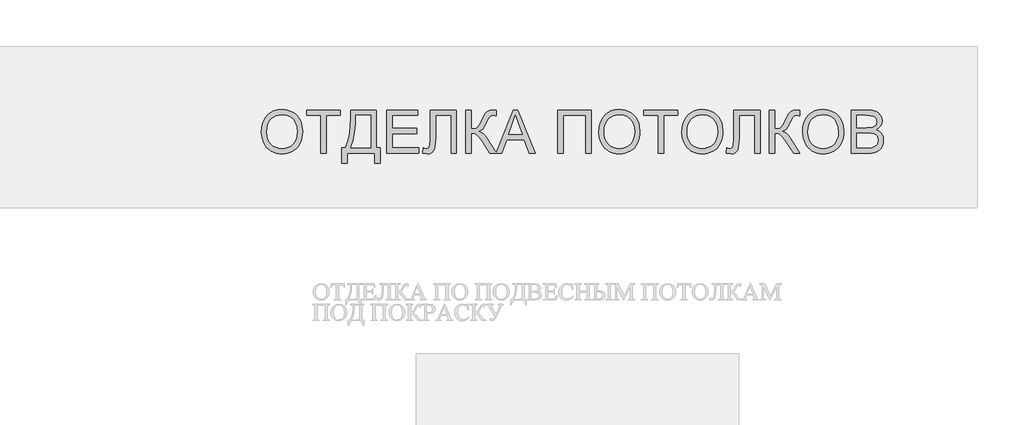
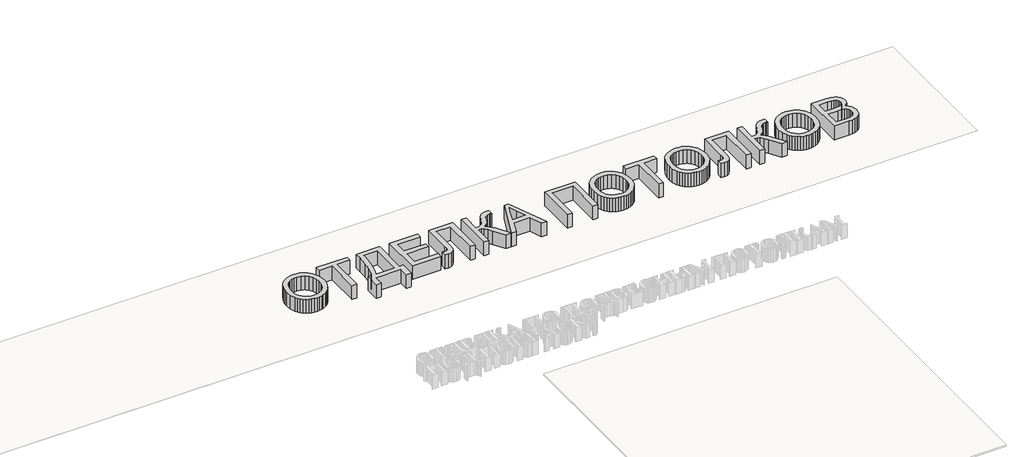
# One storey, part 17 of 17: 1 proxy.
"""IFC4 building model written with IfcOpenShell, lengths in millimetres."""

from ifc_helpers import new_model, si_unit, origin, origin_with_axes, place, context, project, spatial, polyline, outline, extrude, element, save

model = new_model("IFC4")

# Units and contexts
model_context = context("Model", 3, world=origin())
ifc_project = project(units=[si_unit("LENGTHUNIT", "METRE", prefix="MILLI")], contexts=[model_context])

# Site, building, storey
site = spatial("IfcSite", under=ifc_project)
building = spatial("IfcBuilding", under=site)
storey = spatial("IfcBuildingStorey", under=building, Name="Уровень 1", Elevation=0.0)

# Proxy
placement = place(None, origin())
element("IfcBuildingElementProxy", 1, Name="400 мм Arial", ObjectType="400 мм Arial", at=placement, inside=storey, context=model_context, shape_type="SweptSolid", body=[
    extrude(outline(polyline([(6247.8345648, 19027.976291), (6251.182291, 19075.1081059), (6261.2254694, 19116.8320556), (6277.9641002, 19153.1481399), (6301.3981833, 19184.0563588), (6330.1236358, 19208.7351093), (6362.7363746, 19226.3627883), (6399.2363999, 19236.9393956), (6439.6237116, 19240.4649314), (6466.6569069, 19238.8094624), (6492.3289388, 19233.8430555), (6516.6398073, 19225.5657106), (6539.5895125, 19213.9774278), (6560.5342607, 19199.4276948), (6578.8302586, 19182.2659998), (6594.4775061, 19162.4923425), (6607.4760033, 19140.1067231), (6617.69086, 19115.618045), (6624.9871863, 19089.5352115), (6630.8242473, 19032.5870787), (6629.2883399, 19002.9296585), (6624.6806179, 18974.8786564), (6617.0010813, 18948.4340723), (6606.24973, 18923.5959062), (6592.6810157, 18901.0202145), (6576.5493902, 18881.3630532), (6557.8548535, 18864.6244224), (6536.5974056, 18850.8043221), (6513.6139779, 18839.9885915), (6489.7415021, 18832.2630696), (6464.9799781, 18827.6277564), (6439.329406, 18826.082652), (6411.8240955, 18827.7902376), (6385.8148385, 18832.9129944), (6361.3016349, 18841.4509224), (6338.2844847, 18853.4040215), (6317.3642619, 18868.3093737), (6299.1418404, 18885.7040607), (6283.6172202, 18905.5880826), (6270.7904013, 18927.9614392), (6253.5735239, 18976.5831763), (6247.8345648, 19027.976291)]), holes=[polyline([(6298.0627199, 19027.4857817), (6300.5735145, 18994.1863297), (6308.1058984, 18964.6270114), (6320.6598714, 18938.8078267), (6338.2354338, 18916.7287757), (6359.6001806, 18899.0459144), (6383.5217074, 18886.4152993), (6410.000014, 18878.8369301), (6439.0351004, 18876.3108071), (6468.5668276, 18878.8614556), (6495.3578339, 18886.5134011), (6519.4081193, 18899.2666436), (6540.7176839, 18917.1211831), (6558.1644875, 18939.6662181), (6570.6264901, 18966.4909469), (6578.1036917, 18997.5953696), (6580.5960922, 19032.9794861), (6576.328661, 19077.4441566), (6563.5263676, 19115.8755624), (6542.5203057, 19147.3049475), (6513.6415691, 19170.7635561), (6478.8031441, 19185.3684713), (6439.9180172, 19190.2367763), (6411.8915406, 19187.8915286), (6385.8884149, 19180.8557855), (6361.9086401, 19169.1295469), (6339.9522164, 19152.7128128), (6321.6255617, 19130.8146371), (6308.535094, 19102.6440733), (6300.6808134, 19068.2011215), (6298.0627199, 19027.4857817)])]), origin_with_axes(), (0.0, 0.0, 1.0), 150.0),
    extrude(outline(polyline([(6800.3442706, 18832.3611714), (6800.3442706, 19183.9582569), (6668.4953636, 19183.9582569), (6668.4953636, 19234.186412), (6982.4213328, 19234.186412), (6982.4213328, 19183.9582569), (6850.5724257, 19183.9582569), (6850.5724257, 18832.3611714), (6800.3442706, 18832.3611714)])), origin_with_axes(), (0.0, 0.0, 1.0), 150.0),
    extrude(outline(polyline([(7076.5991235, 19234.186412), (7315.1828602, 19234.186412), (7315.1828602, 18882.5893265), (7352.8539765, 18882.5893265), (7352.8539765, 18738.1833807), (7302.6258214, 18738.1833807), (7302.6258214, 18832.3611714), (7045.2065266, 18832.3611714), (7045.2065266, 18738.1833807), (6994.9783715, 18738.1833807), (6994.9783715, 18882.5893265), (7026.3709685, 18882.5893265), (7038.1431923, 18903.0542953), (7048.3457863, 18928.1515116), (7064.0420848, 18992.2426865), (7073.4598639, 19074.8628513), (7076.5991235, 19176.0120059), (7076.5991235, 19234.186412)]), holes=[polyline([(7264.9547051, 19183.9582569), (7126.8272786, 19183.9582569), (7126.8272786, 19163.7492727), (7124.2766301, 19104.1769149), (7116.6246846, 19026.1123556), (7101.5169974, 18946.5762682), (7090.2843338, 18912.6391541), (7076.5991235, 18882.5893265), (7264.9547051, 18882.5893265), (7264.9547051, 19183.9582569)])]), origin_with_axes(), (0.0, 0.0, 1.0), 150.0),
    extrude(outline(polyline([(7415.6391703, 18832.3611714), (7415.6391703, 19234.186412), (7704.451062, 19234.186412), (7704.451062, 19183.9582569), (7465.8673254, 19183.9582569), (7465.8673254, 19064.6663886), (7691.8940232, 19064.6663886), (7691.8940232, 19014.4382336), (7465.8673254, 19014.4382336), (7465.8673254, 18882.5893265), (7710.7295814, 18882.5893265), (7710.7295814, 18832.3611714), (7415.6391703, 18832.3611714)])), origin_with_axes(), (0.0, 0.0, 1.0), 150.0),
    extrude(outline(polyline([(7817.4644109, 19234.186412), (8062.3266669, 19234.186412), (8062.3266669, 18832.3611714), (8012.0985118, 18832.3611714), (8012.0985118, 19183.9582569), (7867.692566, 19183.9582569), (7867.692566, 18978.9253583), (7866.2333007, 18924.8589677), (7861.855505, 18887.4453688), (7852.8178706, 18861.5955273), (7837.3790896, 18842.2204089), (7816.2381376, 18830.1170913), (7790.0939905, 18826.082652), (7748.4006977, 18832.3611714), (7754.6792171, 18882.5893265), (7778.7141741, 18876.3108071), (7795.6980595, 18879.6830587), (7807.8013772, 18889.7998136), (7815.0486525, 18912.4245563), (7817.4644109, 18953.3207714), (7817.4644109, 19234.186412)])), origin_with_axes(), (0.0, 0.0, 1.0), 150.0),
    extrude(outline(polyline([(8374.4868025, 18832.3611714), (8303.0686445, 18945.5707241), (8275.4897576, 18981.880677), (8252.7914385, 19004.677098), (8229.5780846, 19016.7068392), (8200.4540933, 19020.716753), (8200.4540933, 18832.3611714), (8150.2259383, 18832.3611714), (8150.2259383, 19234.186412), (8200.4540933, 19234.186412), (8200.4540933, 19058.3878693), (8234.4586524, 19061.71107), (8256.6174113, 19071.680672), (8274.5332644, 19095.1392806), (8295.8091065, 19138.9295007), (8323.5228835, 19195.0928187), (8336.8892626, 19210.3108705), (8354.9154804, 19222.9046975), (8376.3139498, 19231.3659834), (8399.7970838, 19234.186412), (8432.7593106, 19233.5978008), (8432.7593106, 19183.3696458), (8421.6737998, 19183.6639514), (8410.588289, 19183.9582569), (8387.5834016, 19180.9416246), (8371.3475428, 19171.8917275), (8357.368027, 19152.8844911), (8341.5245758, 19120.1920445), (8322.0881437, 19079.4797703), (8305.9626496, 19057.2106469), (8290.0578846, 19045.487474), (8271.2836401, 19036.4130514), (8290.7384663, 19028.1357065), (8310.0584024, 19013.7024696), (8329.2434485, 18993.1133406), (8348.2936045, 18966.3683195), (8431.0775238, 18835.0293721), (8590.4090082, 19234.186412), (8633.1814215, 19234.186412), (8793.4798696, 18832.3611714), (8740.4067604, 18832.3611714), (8694.4950874, 18957.9315591), (8528.8991386, 18957.9315591), (8482.9874656, 18832.3611714), (8432.7593106, 18832.3611714), (8430.0124583, 18832.3611714), (8374.4868025, 18832.3611714)]), holes=[polyline([(8547.3422893, 19008.1597142), (8676.1500386, 19008.1597142), (8639.8523484, 19106.9482926), (8611.697113, 19183.9582569), (8586.6811373, 19115.5812568), (8547.3422893, 19008.1597142)])]), origin_with_axes(), (0.0, 0.0, 1.0), 150.0),
    extrude(outline(polyline([(9004.1045745, 19234.186412), (9318.0305438, 19234.186412), (9318.0305438, 18832.3611714), (9267.8023887, 18832.3611714), (9267.8023887, 19183.9582569), (9054.3327296, 19183.9582569), (9054.3327296, 18832.3611714), (9004.1045745, 18832.3611714), (9004.1045745, 19234.186412)])), origin_with_axes(), (0.0, 0.0, 1.0), 150.0),
    extrude(outline(polyline([(9387.094257, 19027.976291), (9390.4419831, 19075.1081059), (9400.4851616, 19116.8320556), (9417.2237924, 19153.1481399), (9440.6578755, 19184.0563588), (9469.3833279, 19208.7351093), (9501.9960668, 19226.3627883), (9538.4960921, 19236.9393956), (9578.8834038, 19240.4649314), (9605.9165991, 19238.8094624), (9631.588631, 19233.8430555), (9655.8994995, 19225.5657106), (9678.8492046, 19213.9774278), (9699.7939529, 19199.4276948), (9718.0899508, 19182.2659998), (9733.7371983, 19162.4923425), (9746.7356955, 19140.1067231), (9756.9505522, 19115.618045), (9764.2468784, 19089.5352115), (9770.0839394, 19032.5870787), (9768.5480321, 19002.9296585), (9763.9403101, 18974.8786564), (9756.2607735, 18948.4340723), (9745.5094222, 18923.5959062), (9731.9407079, 18901.0202145), (9715.8090824, 18881.3630532), (9697.1145457, 18864.6244224), (9675.8570977, 18850.8043221), (9652.8736701, 18839.9885915), (9629.0011943, 18832.2630696), (9604.2396703, 18827.6277564), (9578.5890982, 18826.082652), (9551.0837877, 18827.7902376), (9525.0745306, 18832.9129944), (9500.561327, 18841.4509224), (9477.5441769, 18853.4040215), (9456.6239541, 18868.3093737), (9438.4015326, 18885.7040607), (9422.8769124, 18905.5880826), (9410.0500935, 18927.9614392), (9392.8332161, 18976.5831763), (9387.094257, 19027.976291)]), holes=[polyline([(9437.3224121, 19027.4857817), (9439.8332067, 18994.1863297), (9447.3655905, 18964.6270114), (9459.9195636, 18938.8078267), (9477.4951259, 18916.7287757), (9498.8598728, 18899.0459144), (9522.7813995, 18886.4152993), (9549.2597061, 18878.8369301), (9578.2947926, 18876.3108071), (9607.8265198, 18878.8614556), (9634.6175261, 18886.5134011), (9658.6678115, 18899.2666436), (9679.9773761, 18917.1211831), (9697.4241797, 18939.6662181), (9709.8861823, 18966.4909469), (9717.3633838, 18997.5953696), (9719.8557844, 19032.9794861), (9715.5883532, 19077.4441566), (9702.7860598, 19115.8755624), (9681.7799979, 19147.3049475), (9652.9012612, 19170.7635561), (9618.0628363, 19185.3684713), (9579.1777094, 19190.2367763), (9551.1512327, 19187.8915286), (9525.148107, 19180.8557855), (9501.1683323, 19169.1295469), (9479.2119086, 19152.7128128), (9460.8852539, 19130.8146371), (9447.7947862, 19102.6440733), (9439.9405056, 19068.2011215), (9437.3224121, 19027.4857817)])]), origin_with_axes(), (0.0, 0.0, 1.0), 150.0),
    extrude(outline(polyline([(9939.6039628, 18832.3611714), (9939.6039628, 19183.9582569), (9807.7550557, 19183.9582569), (9807.7550557, 19234.186412), (10121.681025, 19234.186412), (10121.681025, 19183.9582569), (9989.8321179, 19183.9582569), (9989.8321179, 18832.3611714), (9939.6039628, 18832.3611714)])), origin_with_axes(), (0.0, 0.0, 1.0), 150.0),
    extrude(outline(polyline([(10159.3521413, 19027.976291), (10162.6998674, 19075.1081059), (10172.7430459, 19116.8320556), (10189.4816767, 19153.1481399), (10212.9157598, 19184.0563588), (10241.6412122, 19208.7351093), (10274.2539511, 19226.3627883), (10310.7539764, 19236.9393956), (10351.1412881, 19240.4649314), (10378.1744834, 19238.8094624), (10403.8465153, 19233.8430555), (10428.1573838, 19225.5657106), (10451.1070889, 19213.9774278), (10472.0518372, 19199.4276948), (10490.3478351, 19182.2659998), (10505.9950826, 19162.4923425), (10518.9935797, 19140.1067231), (10529.2084365, 19115.618045), (10536.5047627, 19089.5352115), (10542.3418237, 19032.5870787), (10540.8059164, 19002.9296585), (10536.1981944, 18974.8786564), (10528.5186577, 18948.4340723), (10517.7673064, 18923.5959062), (10504.1985922, 18901.0202145), (10488.0669667, 18881.3630532), (10469.37243, 18864.6244224), (10448.114982, 18850.8043221), (10425.1315544, 18839.9885915), (10401.2590786, 18832.2630696), (10376.4975546, 18827.6277564), (10350.8469825, 18826.082652), (10323.341672, 18827.7902376), (10297.3324149, 18832.9129944), (10272.8192113, 18841.4509224), (10249.8020611, 18853.4040215), (10228.8818384, 18868.3093737), (10210.6594169, 18885.7040607), (10195.1347967, 18905.5880826), (10182.3079778, 18927.9614392), (10165.0911004, 18976.5831763), (10159.3521413, 19027.976291)]), holes=[polyline([(10209.5802963, 19027.4857817), (10212.091091, 18994.1863297), (10219.6234748, 18964.6270114), (10232.1774479, 18938.8078267), (10249.7530102, 18916.7287757), (10271.1177571, 18899.0459144), (10295.0392838, 18886.4152993), (10321.5175904, 18878.8369301), (10350.5526769, 18876.3108071), (10380.0844041, 18878.8614556), (10406.8754104, 18886.5134011), (10430.9256958, 18899.2666436), (10452.2352604, 18917.1211831), (10469.682064, 18939.6662181), (10482.1440666, 18966.4909469), (10489.6212681, 18997.5953696), (10492.1136686, 19032.9794861), (10487.8462375, 19077.4441566), (10475.0439441, 19115.8755624), (10454.0378821, 19147.3049475), (10425.1591455, 19170.7635561), (10390.3207206, 19185.3684713), (10351.4355937, 19190.2367763), (10323.409117, 19187.8915286), (10297.4059913, 19180.8557855), (10273.4262166, 19169.1295469), (10251.4697929, 19152.7128128), (10233.1431381, 19130.8146371), (10220.0526705, 19102.6440733), (10212.1983899, 19068.2011215), (10209.5802963, 19027.4857817)])]), origin_with_axes(), (0.0, 0.0, 1.0), 150.0),
    extrude(outline(polyline([(10642.7981339, 19234.186412), (10887.6603898, 19234.186412), (10887.6603898, 18832.3611714), (10837.4322348, 18832.3611714), (10837.4322348, 19183.9582569), (10693.0262889, 19183.9582569), (10693.0262889, 18978.9253583), (10691.5670237, 18924.8589677), (10687.1892279, 18887.4453688), (10678.1515936, 18861.5955273), (10662.7128125, 18842.2204089), (10641.5718605, 18830.1170913), (10615.4277134, 18826.082652), (10573.7344206, 18832.3611714), (10580.01294, 18882.5893265), (10604.047897, 18876.3108071), (10621.0317825, 18879.6830587), (10633.1351001, 18889.7998136), (10640.3823754, 18912.4245563), (10642.7981339, 18953.3207714), (10642.7981339, 19234.186412)])), origin_with_axes(), (0.0, 0.0, 1.0), 150.0),
    extrude(outline(polyline([(10975.5596612, 19234.186412), (11025.7878163, 19234.186412), (11025.7878163, 19058.3878693), (11059.7923754, 19061.71107), (11081.9511342, 19071.680672), (11099.8669874, 19095.1392806), (11121.1428295, 19138.9295007), (11148.8566064, 19195.0928187), (11162.2229856, 19210.3108705), (11180.2492033, 19222.9046975), (11201.6476727, 19231.3659834), (11225.1308068, 19234.186412), (11258.0930335, 19233.5978008), (11258.0930335, 19183.3696458), (11247.0075227, 19183.6639514), (11235.9220119, 19183.9582569), (11212.9171245, 19180.9416246), (11196.6812658, 19171.8917275), (11182.70175, 19152.8844911), (11166.8582987, 19120.1920445), (11147.4218666, 19079.4797703), (11131.2963725, 19057.2106469), (11115.3916076, 19045.487474), (11096.6173631, 19036.4130514), (11116.0721893, 19028.1357065), (11135.3921254, 19013.7024696), (11154.5771714, 18993.1133406), (11173.6273274, 18966.3683195), (11258.0930335, 18832.3611714), (11199.8205255, 18832.3611714), (11128.4023675, 18945.5707241), (11100.8234806, 18981.880677), (11078.1251615, 19004.677098), (11054.9118076, 19016.7068392), (11025.7878163, 19020.716753), (11025.7878163, 18832.3611714), (10975.5596612, 18832.3611714), (10975.5596612, 19234.186412)])), origin_with_axes(), (0.0, 0.0, 1.0), 150.0),
    extrude(outline(polyline([(11283.2071111, 19027.976291), (11286.5548372, 19075.1081059), (11296.5980157, 19116.8320556), (11313.3366465, 19153.1481399), (11336.7707296, 19184.0563588), (11365.496182, 19208.7351093), (11398.1089209, 19226.3627883), (11434.6089462, 19236.9393956), (11474.9962579, 19240.4649314), (11502.0294532, 19238.8094624), (11527.7014851, 19233.8430555), (11552.0123536, 19225.5657106), (11574.9620587, 19213.9774278), (11595.906807, 19199.4276948), (11614.2028049, 19182.2659998), (11629.8500524, 19162.4923425), (11642.8485495, 19140.1067231), (11653.0634063, 19115.618045), (11660.3597325, 19089.5352115), (11666.1967935, 19032.5870787), (11664.6608862, 19002.9296585), (11660.0531642, 18974.8786564), (11652.3736275, 18948.4340723), (11641.6222762, 18923.5959062), (11628.053562, 18901.0202145), (11611.9219365, 18881.3630532), (11593.2273998, 18864.6244224), (11571.9699518, 18850.8043221), (11548.9865242, 18839.9885915), (11525.1140484, 18832.2630696), (11500.3525244, 18827.6277564), (11474.7019523, 18826.082652), (11447.1966418, 18827.7902376), (11421.1873847, 18832.9129944), (11396.6741811, 18841.4509224), (11373.6570309, 18853.4040215), (11352.7368081, 18868.3093737), (11334.5143867, 18885.7040607), (11318.9897665, 18905.5880826), (11306.1629476, 18927.9614392), (11288.9460702, 18976.5831763), (11283.2071111, 19027.976291)]), holes=[polyline([(11333.4352661, 19027.4857817), (11335.9460608, 18994.1863297), (11343.4784446, 18964.6270114), (11356.0324177, 18938.8078267), (11373.60798, 18916.7287757), (11394.9727269, 18899.0459144), (11418.8942536, 18886.4152993), (11445.3725602, 18878.8369301), (11474.4076467, 18876.3108071), (11503.9393739, 18878.8614556), (11530.7303801, 18886.5134011), (11554.7806656, 18899.2666436), (11576.0902302, 18917.1211831), (11593.5370338, 18939.6662181), (11605.9990364, 18966.4909469), (11613.4762379, 18997.5953696), (11615.9686384, 19032.9794861), (11611.7012073, 19077.4441566), (11598.8989139, 19115.8755624), (11577.8928519, 19147.3049475), (11549.0141153, 19170.7635561), (11514.1756904, 19185.3684713), (11475.2905635, 19190.2367763), (11447.2640868, 19187.8915286), (11421.2609611, 19180.8557855), (11397.2811864, 19169.1295469), (11375.3247627, 19152.7128128), (11356.9981079, 19130.8146371), (11343.9076403, 19102.6440733), (11336.0533597, 19068.2011215), (11333.4352661, 19027.4857817)])]), origin_with_axes(), (0.0, 0.0, 1.0), 150.0),
    extrude(outline(polyline([(11735.2605067, 18832.3611714), (11735.2605067, 19234.186412), (11888.5937223, 19234.186412), (11930.7652617, 19231.2310933), (11963.6907003, 19222.3651372), (11988.9274051, 19207.3678146), (12008.0327434, 19186.0183961), (12020.0624847, 19160.9043186), (12024.0723984, 19134.6130187), (12020.7001468, 19110.4186461), (12010.5833919, 19087.6712761), (11993.6485574, 19067.7688601), (11969.8220669, 19052.1093499), (11998.2838706, 19037.2469173), (12019.3144579, 19014.6344373), (12032.3006924, 18985.7679634), (12036.6294372, 18952.1435491), (12033.6741185, 18924.1232038), (12024.8081624, 18898.1384722), (12011.5766733, 18876.041027), (11995.5247556, 18859.6825409), (11975.8675943, 18847.8367407), (11951.8203746, 18839.2773529), (11922.5982814, 18834.0902168), (11887.4164999, 18832.3611714), (11735.2605067, 18832.3611714)]), holes=[polyline([(11785.4886618, 19070.944908), (11877.2139059, 19070.944908), (11930.7775244, 19075.2613901), (11949.5272435, 19082.7048691), (11963.0039872, 19093.8516936), (11971.1341793, 19108.5301852), (11973.8442433, 19126.5686657), (11971.3181203, 19144.0798487), (11963.7397512, 19159.3346887), (11951.4524926, 19171.2418026), (11934.7997009, 19178.7098072), (11909.244165, 19182.6461445), (11870.2486735, 19183.9582569), (11785.4886618, 19183.9582569), (11785.4886618, 19070.944908)]), polyline([(11785.4886618, 18882.5893265), (11888.4956205, 18882.5893265), (11925.7743293, 18884.5513638), (11957.314079, 18895.4897218), (11968.8900991, 18904.9197636), (11978.2097763, 18917.8078962), (11984.3534057, 18933.577771), (11986.4012821, 18951.6530397), (11983.9977864, 18972.6468389), (11976.7872993, 18990.6975821), (11964.1934723, 19004.811988), (11945.639957, 19013.9967752), (11919.3609199, 19019.0367585), (11883.5905272, 19020.716753), (11785.4886618, 19020.716753), (11785.4886618, 18882.5893265)])]), origin_with_axes(), (0.0, 0.0, 1.0), 150.0),
])

save(model, "model.ifc")
